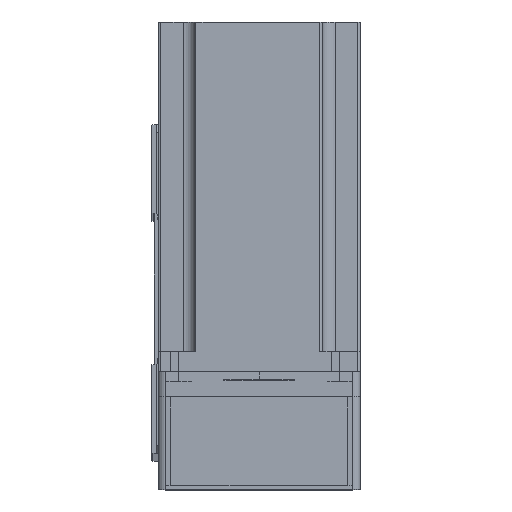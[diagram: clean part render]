
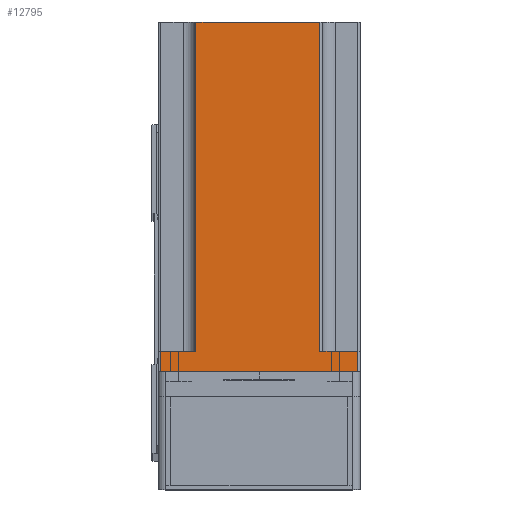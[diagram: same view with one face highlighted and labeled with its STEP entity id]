
A CAD part, top view. The second image highlights one B-rep face of the part: STEP entity #12795.
In plain terms, the highlighted planar face has unit normal (0, 0, 1) as drawn and (-1, 0, 0) by its records, which use the part's own axes.
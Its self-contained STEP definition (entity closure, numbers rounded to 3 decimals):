
#1066 = EDGE_CURVE ( 'NONE', #40496, #31358, #50451, .T. ) ;
#3877 = CARTESIAN_POINT ( 'NONE',  ( -40., 40., 8. ) ) ;
#4053 = EDGE_CURVE ( 'NONE', #53584, #58358, #46841, .T. ) ;
#5273 = CARTESIAN_POINT ( 'NONE',  ( -40., -24., 8. ) ) ;
#5699 = DIRECTION ( 'NONE',  ( 0., 0., 1. ) ) ;
#6953 = EDGE_CURVE ( 'NONE', #31358, #53584, #17642, .T. ) ;
#7631 = CARTESIAN_POINT ( 'NONE',  ( -40., 39., 138.3 ) ) ;
#9298 = FACE_OUTER_BOUND ( 'NONE', #20095, .T. ) ;
#9324 = DIRECTION ( 'NONE',  ( 0., 1., 0. ) ) ;
#11674 = CARTESIAN_POINT ( 'NONE',  ( -40., -39., 138.3 ) ) ;
#11832 = VECTOR ( 'NONE', #20710, 1000. ) ;
#12795 = ADVANCED_FACE ( 'NONE', ( #9298 ), #25770, .F. ) ;
#13322 = LINE ( 'NONE', #48821, #49736 ) ;
#14987 = VECTOR ( 'NONE', #39038, 1000. ) ;
#15486 = VECTOR ( 'NONE', #19089, 1000. ) ;
#16257 = VECTOR ( 'NONE', #16630, 1000. ) ;
#16630 = DIRECTION ( 'NONE',  ( 0., 0., -1. ) ) ;
#16787 = DIRECTION ( 'NONE',  ( 1., 0., 0. ) ) ;
#17642 = LINE ( 'NONE', #7631, #16257 ) ;
#17825 = CARTESIAN_POINT ( 'NONE',  ( -40., 39., 0. ) ) ;
#19089 = DIRECTION ( 'NONE',  ( 0., 0., 1. ) ) ;
#20095 = EDGE_LOOP ( 'NONE', ( #57294, #35884, #26075, #48858, #26493, #36207, #33283, #38628 ) ) ;
#20668 = VERTEX_POINT ( 'NONE', #57166 ) ;
#20710 = DIRECTION ( 'NONE',  ( 0., -1., 0. ) ) ;
#21549 = CARTESIAN_POINT ( 'NONE',  ( -40., -39., 0. ) ) ;
#22172 = VECTOR ( 'NONE', #5699, 1000. ) ;
#22622 = EDGE_CURVE ( 'NONE', #20668, #23274, #29154, .T. ) ;
#23274 = VERTEX_POINT ( 'NONE', #57567 ) ;
#24736 = VECTOR ( 'NONE', #9324, 1000. ) ;
#25770 = PLANE ( 'NONE',  #51001 ) ;
#26059 = DIRECTION ( 'NONE',  ( 0., -1., 0. ) ) ;
#26075 = ORIENTED_EDGE ( 'NONE', *, *, #22622, .F. ) ;
#26493 = ORIENTED_EDGE ( 'NONE', *, *, #1066, .T. ) ;
#27736 = DIRECTION ( 'NONE',  ( 0., -1., 0. ) ) ;
#27936 = VERTEX_POINT ( 'NONE', #30268 ) ;
#29154 = LINE ( 'NONE', #50497, #53435 ) ;
#30268 = CARTESIAN_POINT ( 'NONE',  ( -40., -39., 8. ) ) ;
#30862 = CARTESIAN_POINT ( 'NONE',  ( -40., 25., 8. ) ) ;
#31358 = VERTEX_POINT ( 'NONE', #35939 ) ;
#33120 = CARTESIAN_POINT ( 'NONE',  ( -40., 25., 8. ) ) ;
#33283 = ORIENTED_EDGE ( 'NONE', *, *, #4053, .T. ) ;
#33883 = EDGE_CURVE ( 'NONE', #58358, #27936, #48546, .T. ) ;
#35884 = ORIENTED_EDGE ( 'NONE', *, *, #48317, .T. ) ;
#35939 = CARTESIAN_POINT ( 'NONE',  ( -40., 39., 8. ) ) ;
#36207 = ORIENTED_EDGE ( 'NONE', *, *, #6953, .T. ) ;
#36283 = VERTEX_POINT ( 'NONE', #5273 ) ;
#37521 = CARTESIAN_POINT ( 'NONE',  ( -40., -24., 138.3 ) ) ;
#38628 = ORIENTED_EDGE ( 'NONE', *, *, #33883, .T. ) ;
#39038 = DIRECTION ( 'NONE',  ( 0., 0., 1. ) ) ;
#39795 = LINE ( 'NONE', #37521, #15486 ) ;
#40496 = VERTEX_POINT ( 'NONE', #30862 ) ;
#44136 = CARTESIAN_POINT ( 'NONE',  ( -40., -40., 138.3 ) ) ;
#46841 = LINE ( 'NONE', #48085, #11832 ) ;
#48085 = CARTESIAN_POINT ( 'NONE',  ( -40., -40., 0. ) ) ;
#48317 = EDGE_CURVE ( 'NONE', #36283, #23274, #39795, .T. ) ;
#48546 = LINE ( 'NONE', #11674, #14987 ) ;
#48572 = EDGE_CURVE ( 'NONE', #36283, #27936, #13322, .T. ) ;
#48719 = DIRECTION ( 'NONE',  ( 0., 0., -1. ) ) ;
#48821 = CARTESIAN_POINT ( 'NONE',  ( -40., -40., 8. ) ) ;
#48858 = ORIENTED_EDGE ( 'NONE', *, *, #51124, .F. ) ;
#49736 = VECTOR ( 'NONE', #26059, 1000. ) ;
#50451 = LINE ( 'NONE', #3877, #24736 ) ;
#50497 = CARTESIAN_POINT ( 'NONE',  ( -40., -40., 138.3 ) ) ;
#51001 = AXIS2_PLACEMENT_3D ( 'NONE', #44136, #16787, #48719 ) ;
#51124 = EDGE_CURVE ( 'NONE', #40496, #20668, #58703, .T. ) ;
#53435 = VECTOR ( 'NONE', #27736, 1000. ) ;
#53584 = VERTEX_POINT ( 'NONE', #17825 ) ;
#57166 = CARTESIAN_POINT ( 'NONE',  ( -40., 25., 138.3 ) ) ;
#57294 = ORIENTED_EDGE ( 'NONE', *, *, #48572, .F. ) ;
#57567 = CARTESIAN_POINT ( 'NONE',  ( -40., -24., 138.3 ) ) ;
#58358 = VERTEX_POINT ( 'NONE', #21549 ) ;
#58703 = LINE ( 'NONE', #33120, #22172 ) ;
